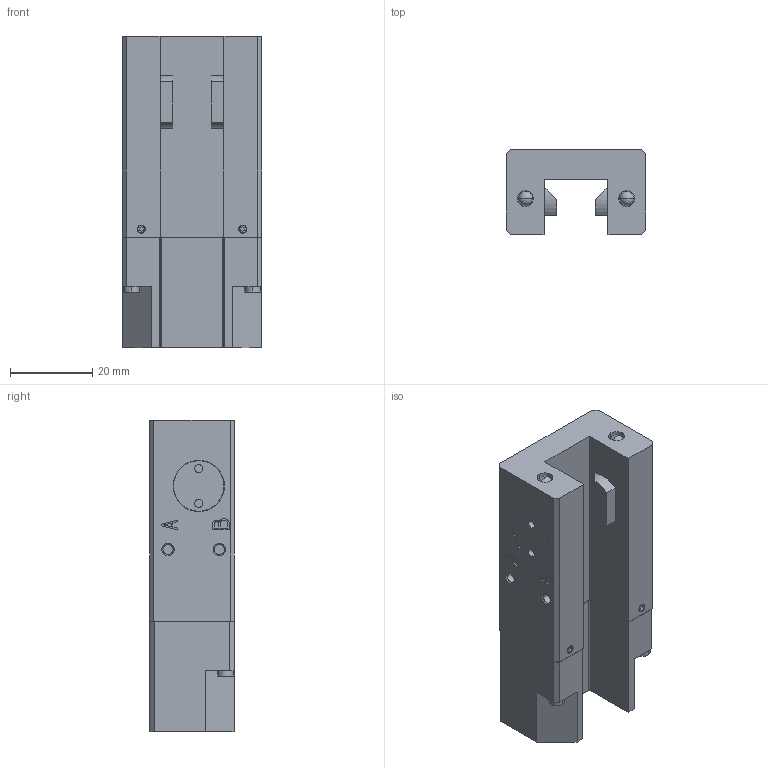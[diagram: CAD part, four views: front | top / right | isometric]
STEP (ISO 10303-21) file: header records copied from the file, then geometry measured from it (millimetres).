
FILE_DESCRIPTION( ( '' ), '1' );
FILE_NAME( 'E:/04 嬴檜蠱滌/0404 ZIMMER/040414 ZIMMER CAD download/LKPS/LKPS1505AS2---.stp', '2020-04-16T09:47:01', ( '' ), ( '' ), ' ', ' ', ' ' );
FILE_SCHEMA( ( 'automotive_design' ) );
Length unit declared in the file: millimetre
Products named in the file (1): 1
Bounding box: 34 x 20.7 x 75.9 mm (x, y, z)
Volume: 36319.1 mm3; surface area: 12232.7 mm2
Topology: 1 solids, 1 shells, 311 faces, 746 edges, 490 vertices
Faces by surface type: plane 201, cylinder 82, cone 20, sphere 4, torus 4
Entity records: 17676 total; most frequent: DIRECTION 1586, STYLED_ITEM 1544, PRESENTATION_STYLE_ASSIGNMENT 1544, CARTESIAN_POINT 1544, COLOUR_RGB 1544, ORIENTED_EDGE 1484, EDGE_CURVE 742, CURVE_STYLE 742
